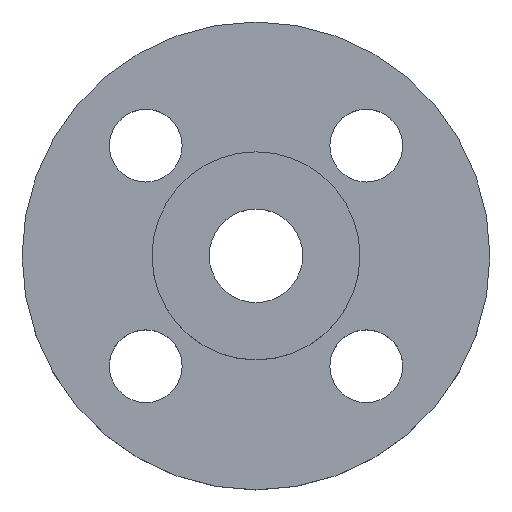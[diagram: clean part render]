
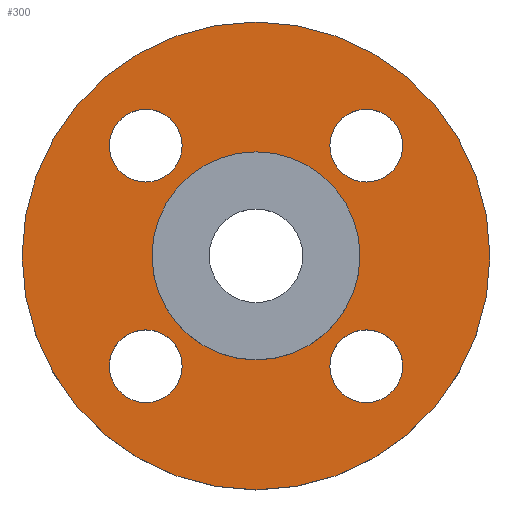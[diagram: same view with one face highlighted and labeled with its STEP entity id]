
A CAD part, top view. The second image highlights one B-rep face of the part: STEP entity #300.
In plain terms, the highlighted planar face has unit normal (0, 0, 1).
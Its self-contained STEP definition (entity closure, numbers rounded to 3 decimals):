
#2 = AXIS2_PLACEMENT_3D ( 'NONE', #594, #596, #597 ) ;
#22 = CIRCLE ( 'NONE', #297, 45. ) ;
#44 = AXIS2_PLACEMENT_3D ( 'NONE', #171, #198, #190 ) ;
#45 = EDGE_CURVE ( 'NONE', #521, #534, #179, .T. ) ;
#56 = CARTESIAN_POINT ( 'NONE',  ( -14.213, 21.213, 0. ) ) ;
#75 = CIRCLE ( 'NONE', #361, 7. ) ;
#76 = CIRCLE ( 'NONE', #268, 7. ) ;
#85 = DIRECTION ( 'NONE',  ( -1., 0., 0. ) ) ;
#86 = DIRECTION ( 'NONE',  ( 0., 0., -1. ) ) ;
#87 = CARTESIAN_POINT ( 'NONE',  ( 21.213, 21.213, 0. ) ) ;
#110 = CARTESIAN_POINT ( 'NONE',  ( -45., 0., 0. ) ) ;
#119 = DIRECTION ( 'NONE',  ( 1., 0., 0. ) ) ;
#120 = DIRECTION ( 'NONE',  ( 0., 0., 1. ) ) ;
#121 = CARTESIAN_POINT ( 'NONE',  ( 0., 0., 0. ) ) ;
#133 = CARTESIAN_POINT ( 'NONE',  ( -28.213, -21.213, 0. ) ) ;
#140 = DIRECTION ( 'NONE',  ( -1., 0., 0. ) ) ;
#141 = DIRECTION ( 'NONE',  ( 0., 0., -1. ) ) ;
#142 = CARTESIAN_POINT ( 'NONE',  ( -21.213, 21.213, 0. ) ) ;
#143 = CARTESIAN_POINT ( 'NONE',  ( -14.213, -21.213, 0. ) ) ;
#151 = CARTESIAN_POINT ( 'NONE',  ( 21.213, -21.213, 0. ) ) ;
#152 = DIRECTION ( 'NONE',  ( -1., 0., 0. ) ) ;
#153 = DIRECTION ( 'NONE',  ( 0., 0., -1. ) ) ;
#155 = AXIS2_PLACEMENT_3D ( 'NONE', #278, #286, #289 ) ;
#165 = CARTESIAN_POINT ( 'NONE',  ( -13.5, 0., 0. ) ) ;
#166 = CARTESIAN_POINT ( 'NONE',  ( 14.213, -21.213, 0. ) ) ;
#168 = CARTESIAN_POINT ( 'NONE',  ( 14.213, 21.213, 0. ) ) ;
#171 = CARTESIAN_POINT ( 'NONE',  ( -21.213, 21.213, 0. ) ) ;
#177 = CARTESIAN_POINT ( 'NONE',  ( 45., 0., 0. ) ) ;
#179 = CIRCLE ( 'NONE', #2, 7. ) ;
#184 = DIRECTION ( 'NONE',  ( -1., 0., 0. ) ) ;
#186 = CARTESIAN_POINT ( 'NONE',  ( -21.213, -21.213, 0. ) ) ;
#187 = DIRECTION ( 'NONE',  ( 0., 0., 1. ) ) ;
#189 = DIRECTION ( 'NONE',  ( 1., 0., 0. ) ) ;
#190 = DIRECTION ( 'NONE',  ( -1., 0., 0. ) ) ;
#192 = CARTESIAN_POINT ( 'NONE',  ( 0., 0., 0. ) ) ;
#196 = DIRECTION ( 'NONE',  ( 0., 0., -1. ) ) ;
#198 = DIRECTION ( 'NONE',  ( 0., 0., -1. ) ) ;
#203 = CARTESIAN_POINT ( 'NONE',  ( -21.213, -21.213, 0. ) ) ;
#206 = CARTESIAN_POINT ( 'NONE',  ( 28.213, 21.213, 0. ) ) ;
#216 = CARTESIAN_POINT ( 'NONE',  ( 0., 0., 0. ) ) ;
#218 = CIRCLE ( 'NONE', #639, 13.5 ) ;
#220 = DIRECTION ( 'NONE',  ( 0., 0., 1. ) ) ;
#223 = DIRECTION ( 'NONE',  ( 1., 0., 0. ) ) ;
#250 = FACE_BOUND ( 'NONE', #379, .T. ) ;
#253 = FACE_BOUND ( 'NONE', #529, .T. ) ;
#254 = FACE_BOUND ( 'NONE', #498, .T. ) ;
#259 = FACE_BOUND ( 'NONE', #299, .T. ) ;
#262 = VERTEX_POINT ( 'NONE', #110 ) ;
#266 = VERTEX_POINT ( 'NONE', #133 ) ;
#267 = VERTEX_POINT ( 'NONE', #143 ) ;
#268 = AXIS2_PLACEMENT_3D ( 'NONE', #151, #153, #152 ) ;
#274 = FACE_BOUND ( 'NONE', #292, .T. ) ;
#275 = FACE_OUTER_BOUND ( 'NONE', #438, .T. ) ;
#276 = PLANE ( 'NONE',  #155 ) ;
#278 = CARTESIAN_POINT ( 'NONE',  ( 0., 0., 0. ) ) ;
#280 = EDGE_CURVE ( 'NONE', #542, #262, #22, .T. ) ;
#286 = DIRECTION ( 'NONE',  ( 0., 0., 1. ) ) ;
#289 = DIRECTION ( 'NONE',  ( 1., 0., 0. ) ) ;
#292 = EDGE_LOOP ( 'NONE', ( #395, #397 ) ) ;
#297 = AXIS2_PLACEMENT_3D ( 'NONE', #216, #220, #223 ) ;
#299 = EDGE_LOOP ( 'NONE', ( #392, #393 ) ) ;
#300 = ADVANCED_FACE ( 'NONE', ( #250, #253, #254, #259, #274, #275 ), #276, .T. ) ;
#302 = AXIS2_PLACEMENT_3D ( 'NONE', #203, #708, #731 ) ;
#325 = AXIS2_PLACEMENT_3D ( 'NONE', #504, #512, #518 ) ;
#354 = EDGE_CURVE ( 'NONE', #515, #524, #390, .T. ) ;
#357 = CIRCLE ( 'NONE', #726, 13.5 ) ;
#361 = AXIS2_PLACEMENT_3D ( 'NONE', #186, #196, #184 ) ;
#364 = CIRCLE ( 'NONE', #44, 7. ) ;
#366 = CARTESIAN_POINT ( 'NONE',  ( 13.5, 0., 0. ) ) ;
#379 = EDGE_LOOP ( 'NONE', ( #496, #546 ) ) ;
#386 = ORIENTED_EDGE ( 'NONE', *, *, #578, .T. ) ;
#387 = ORIENTED_EDGE ( 'NONE', *, *, #623, .T. ) ;
#388 = ORIENTED_EDGE ( 'NONE', *, *, #541, .T. ) ;
#389 = ORIENTED_EDGE ( 'NONE', *, *, #633, .T. ) ;
#390 = CIRCLE ( 'NONE', #325, 7. ) ;
#391 = EDGE_CURVE ( 'NONE', #527, #516, #218, .T. ) ;
#392 = ORIENTED_EDGE ( 'NONE', *, *, #730, .T. ) ;
#393 = ORIENTED_EDGE ( 'NONE', *, *, #45, .T. ) ;
#395 = ORIENTED_EDGE ( 'NONE', *, *, #391, .F. ) ;
#397 = ORIENTED_EDGE ( 'NONE', *, *, #564, .F. ) ;
#399 = ORIENTED_EDGE ( 'NONE', *, *, #280, .T. ) ;
#400 = ORIENTED_EDGE ( 'NONE', *, *, #678, .T. ) ;
#438 = EDGE_LOOP ( 'NONE', ( #399, #400 ) ) ;
#446 = AXIS2_PLACEMENT_3D ( 'NONE', #87, #86, #85 ) ;
#477 = CIRCLE ( 'NONE', #302, 7. ) ;
#490 = VERTEX_POINT ( 'NONE', #686 ) ;
#496 = ORIENTED_EDGE ( 'NONE', *, *, #505, .T. ) ;
#498 = EDGE_LOOP ( 'NONE', ( #388, #389 ) ) ;
#502 = VERTEX_POINT ( 'NONE', #56 ) ;
#504 = CARTESIAN_POINT ( 'NONE',  ( 21.213, -21.213, 0. ) ) ;
#505 = EDGE_CURVE ( 'NONE', #524, #515, #76, .T. ) ;
#512 = DIRECTION ( 'NONE',  ( 0., 0., -1. ) ) ;
#515 = VERTEX_POINT ( 'NONE', #166 ) ;
#516 = VERTEX_POINT ( 'NONE', #165 ) ;
#518 = DIRECTION ( 'NONE',  ( -1., 0., 0. ) ) ;
#521 = VERTEX_POINT ( 'NONE', #168 ) ;
#524 = VERTEX_POINT ( 'NONE', #720 ) ;
#527 = VERTEX_POINT ( 'NONE', #366 ) ;
#529 = EDGE_LOOP ( 'NONE', ( #386, #387 ) ) ;
#534 = VERTEX_POINT ( 'NONE', #206 ) ;
#541 = EDGE_CURVE ( 'NONE', #502, #490, #364, .T. ) ;
#542 = VERTEX_POINT ( 'NONE', #177 ) ;
#546 = ORIENTED_EDGE ( 'NONE', *, *, #354, .T. ) ;
#557 = CIRCLE ( 'NONE', #732, 45. ) ;
#564 = EDGE_CURVE ( 'NONE', #516, #527, #357, .T. ) ;
#574 = CARTESIAN_POINT ( 'NONE',  ( 0., 0., 0. ) ) ;
#578 = EDGE_CURVE ( 'NONE', #267, #266, #75, .T. ) ;
#579 = DIRECTION ( 'NONE',  ( 0., 0., 1. ) ) ;
#584 = DIRECTION ( 'NONE',  ( 1., 0., 0. ) ) ;
#594 = CARTESIAN_POINT ( 'NONE',  ( 21.213, 21.213, 0. ) ) ;
#596 = DIRECTION ( 'NONE',  ( 0., 0., -1. ) ) ;
#597 = DIRECTION ( 'NONE',  ( -1., 0., 0. ) ) ;
#623 = EDGE_CURVE ( 'NONE', #266, #267, #477, .T. ) ;
#633 = EDGE_CURVE ( 'NONE', #490, #502, #706, .T. ) ;
#639 = AXIS2_PLACEMENT_3D ( 'NONE', #574, #579, #584 ) ;
#678 = EDGE_CURVE ( 'NONE', #262, #542, #557, .T. ) ;
#686 = CARTESIAN_POINT ( 'NONE',  ( -28.213, 21.213, 0. ) ) ;
#688 = AXIS2_PLACEMENT_3D ( 'NONE', #142, #141, #140 ) ;
#706 = CIRCLE ( 'NONE', #688, 7. ) ;
#708 = DIRECTION ( 'NONE',  ( 0., 0., -1. ) ) ;
#720 = CARTESIAN_POINT ( 'NONE',  ( 28.213, -21.213, 0. ) ) ;
#726 = AXIS2_PLACEMENT_3D ( 'NONE', #192, #187, #189 ) ;
#729 = CIRCLE ( 'NONE', #446, 7. ) ;
#730 = EDGE_CURVE ( 'NONE', #534, #521, #729, .T. ) ;
#731 = DIRECTION ( 'NONE',  ( -1., 0., 0. ) ) ;
#732 = AXIS2_PLACEMENT_3D ( 'NONE', #121, #120, #119 ) ;
